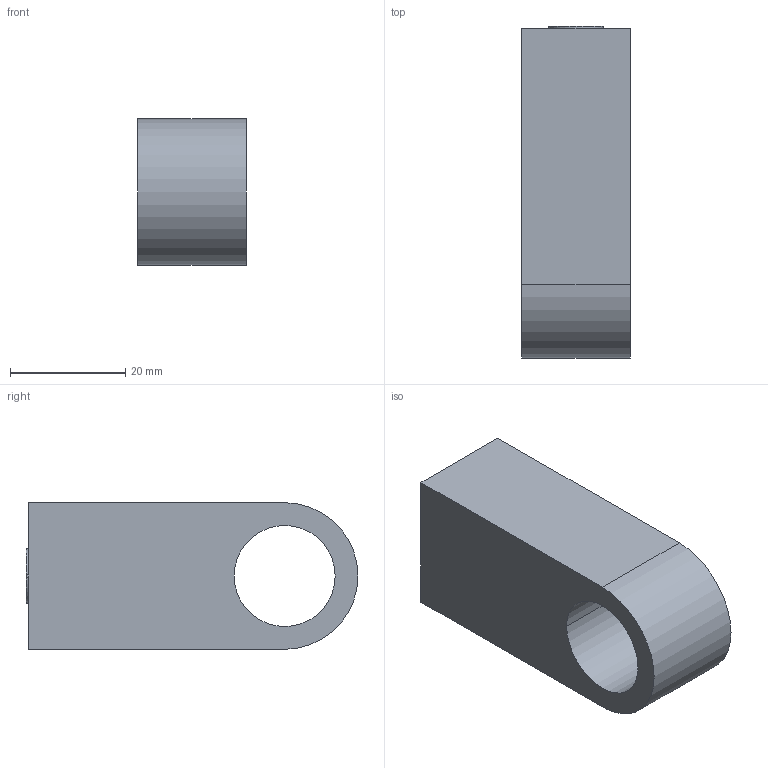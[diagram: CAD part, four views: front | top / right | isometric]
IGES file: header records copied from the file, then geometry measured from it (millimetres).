
Start section:  PTC IGES file: conrod25.igs
Global section: file name: conrod25.igs; native system: Pro/ENGINEER by Parametric Technology Corporation; preprocessor: 2008150; author: dcembree; organization: Unknown; date: 20090409.204904; units: inch
Bounding box: 18.85 x 57.53 x 25.4 mm (x, y, z)
Volume: 20223.8 mm3; surface area: 8766.1 mm2
Topology: 1 solids, 2 shells, 18 faces, 60 edges, 59 vertices
Faces by surface type: revolution 11, bspline 7
